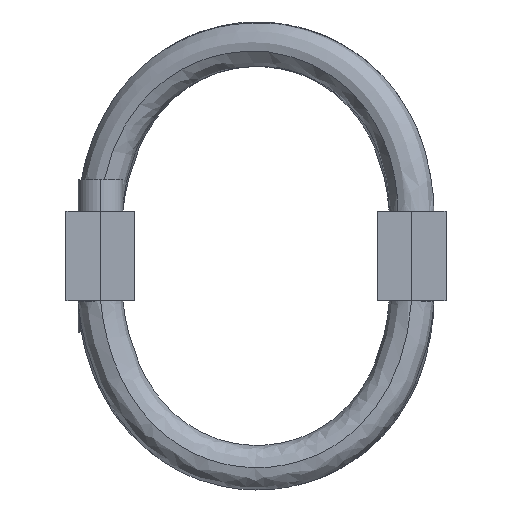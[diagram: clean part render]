
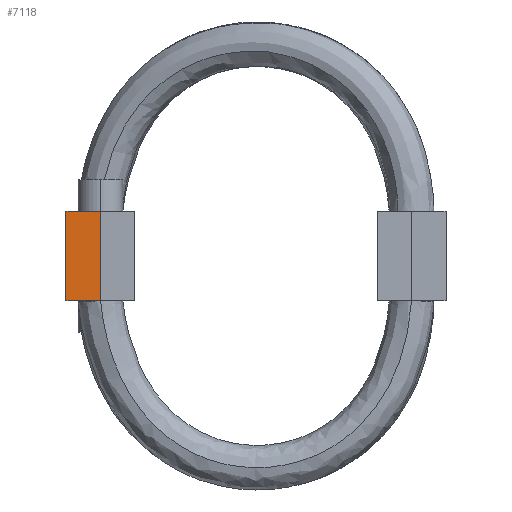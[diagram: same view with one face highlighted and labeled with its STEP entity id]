
A CAD part, left-side view. The second image highlights one B-rep face of the part: STEP entity #7118.
In plain terms, the highlighted planar face has unit normal (-1, 0, 0).
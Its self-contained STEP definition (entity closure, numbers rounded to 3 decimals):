
#1665 = ORIENTED_EDGE ( 'NONE', *, *, #3247, .F. ) ;
#2348 = VECTOR ( 'NONE', #16498, 1000. ) ;
#2452 = DIRECTION ( 'NONE',  ( 0., 0., 1. ) ) ;
#2579 = VECTOR ( 'NONE', #2452, 1000. ) ;
#2982 = FACE_OUTER_BOUND ( 'NONE', #19504, .T. ) ;
#3247 = EDGE_CURVE ( 'NONE', #14865, #14330, #27397, .T. ) ;
#3308 = CARTESIAN_POINT ( 'NONE',  ( -107.95, 54., 12.7 ) ) ;
#5722 = ORIENTED_EDGE ( 'NONE', *, *, #11878, .F. ) ;
#5863 = VECTOR ( 'NONE', #22950, 1000. ) ;
#5927 = CARTESIAN_POINT ( 'NONE',  ( -107.95, 54., -12.7 ) ) ;
#6029 = PLANE ( 'NONE',  #7849 ) ;
#7118 = ADVANCED_FACE ( 'NONE', ( #2982 ), #6029, .T. ) ;
#7849 = AXIS2_PLACEMENT_3D ( 'NONE', #8858, #28487, #11676 ) ;
#8858 = CARTESIAN_POINT ( 'NONE',  ( -107.95, 49.1, 0. ) ) ;
#9849 = LINE ( 'NONE', #16377, #2348 ) ;
#10521 = VECTOR ( 'NONE', #14375, 1000. ) ;
#11676 = DIRECTION ( 'NONE',  ( 0., 0., 1. ) ) ;
#11878 = EDGE_CURVE ( 'NONE', #13492, #14865, #17526, .T. ) ;
#13492 = VERTEX_POINT ( 'NONE', #36191 ) ;
#13766 = CARTESIAN_POINT ( 'NONE',  ( -107.95, 54., 12.7 ) ) ;
#13785 = VERTEX_POINT ( 'NONE', #25736 ) ;
#14330 = VERTEX_POINT ( 'NONE', #31892 ) ;
#14375 = DIRECTION ( 'NONE',  ( 0., 1., 0. ) ) ;
#14865 = VERTEX_POINT ( 'NONE', #13766 ) ;
#16377 = CARTESIAN_POINT ( 'NONE',  ( -107.95, 44.2, -12.7 ) ) ;
#16498 = DIRECTION ( 'NONE',  ( 0., 0., -1. ) ) ;
#16557 = ORIENTED_EDGE ( 'NONE', *, *, #19578, .F. ) ;
#17526 = LINE ( 'NONE', #33342, #2579 ) ;
#17953 = LINE ( 'NONE', #5927, #10521 ) ;
#19504 = EDGE_LOOP ( 'NONE', ( #1665, #5722, #16557, #23800 ) ) ;
#19578 = EDGE_CURVE ( 'NONE', #13785, #13492, #17953, .T. ) ;
#22950 = DIRECTION ( 'NONE',  ( 0., -1., 0. ) ) ;
#23800 = ORIENTED_EDGE ( 'NONE', *, *, #34045, .F. ) ;
#25736 = CARTESIAN_POINT ( 'NONE',  ( -107.95, 44.2, -12.7 ) ) ;
#27397 = LINE ( 'NONE', #3308, #5863 ) ;
#28487 = DIRECTION ( 'NONE',  ( -1., 0., 0. ) ) ;
#31892 = CARTESIAN_POINT ( 'NONE',  ( -107.95, 44.2, 12.7 ) ) ;
#33342 = CARTESIAN_POINT ( 'NONE',  ( -107.95, 54., -12.7 ) ) ;
#34045 = EDGE_CURVE ( 'NONE', #14330, #13785, #9849, .T. ) ;
#36191 = CARTESIAN_POINT ( 'NONE',  ( -107.95, 54., -12.7 ) ) ;
